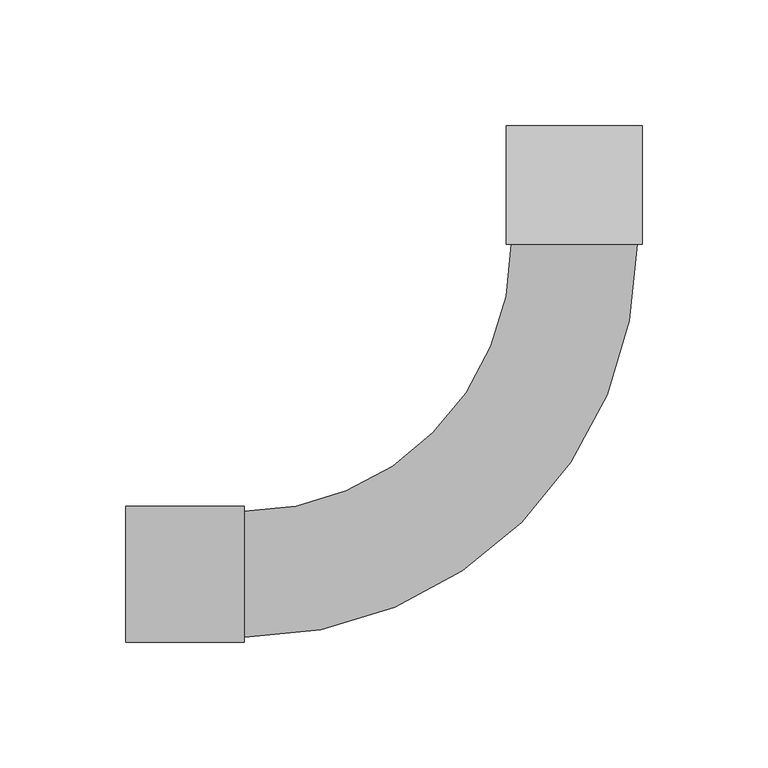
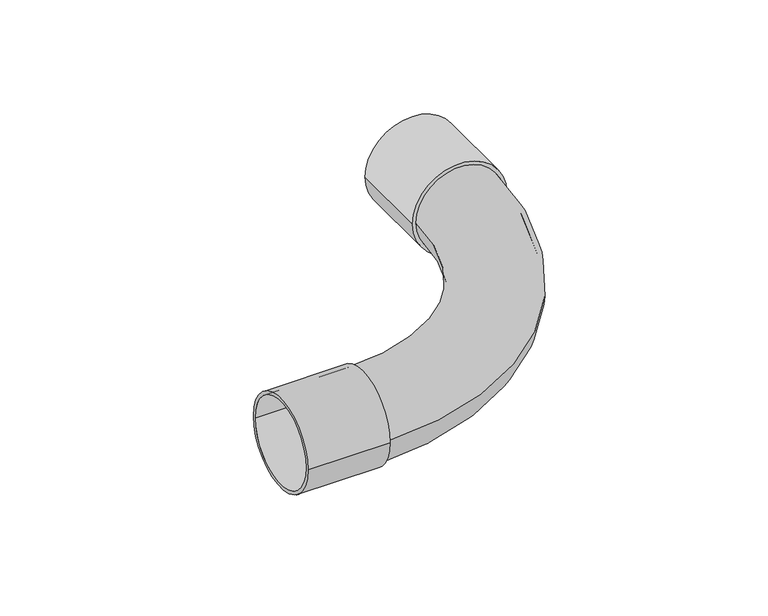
"""IFC4 building model written with IfcOpenShell, lengths in millimetres: cable carrier fitting geometry, КНС_ПоворотНа90ГрадусовТрубаТруба_IP40_DKC : Коробка."""

from ifc_helpers import new_model, si_unit, point, frame, origin, origin_2d, place, context, project, spatial, circle_curve, ellipse_curve, trimmed, segment, composite_curve, outline, extrude, source, transform, mapped, element, save
from ifc_brep_helpers import plane_surface, revolved_surface, advanced_brep


def cable_carrier_fitting_29bca8ed(model_context):
    return source(origin(), model_context, "Body", "SolidModel", [
        advanced_brep(
        [(-131.0, -25.0, 0.0), (-131.0, 25.0, 0.0), (-131.0, -22.5, 0.0), (-131.0, 22.5, 0.0), (25.0, 131.0, 0.0), (-25.0, 131.0, 0.0), (22.5, 131.0, 0.0), (-22.5, 131.0, 0.0)],
        [
            (0, 1, circle_curve(frame((-131.0, 0.0, 0.0), z_axis=(-1.0, 0.0, 0.0), x_axis=(0.0, 1.0, 0.0)), 25.0)),
            (1, 0, circle_curve(frame((-131.0, 0.0, 0.0), z_axis=(-1.0, 0.0, 0.0), x_axis=(0.0, 1.0, 0.0)), 25.0)),
            (2, 3, circle_curve(frame((-131.0, 0.0, 0.0), z_axis=(1.0, 0.0, 0.0), x_axis=(0.0, 1.0, 0.0)), 22.5)),
            (3, 2, circle_curve(frame((-131.0, 0.0, 0.0), z_axis=(1.0, 0.0, 0.0), x_axis=(0.0, 1.0, 0.0)), 22.5)),
            (4, 5, circle_curve(frame((0.0, 131.0, 0.0), z_axis=(0.0, 1.0, 0.0), x_axis=(-1.0, 0.0, 0.0)), 25.0)),
            (5, 4, circle_curve(frame((0.0, 131.0, 0.0), z_axis=(0.0, 1.0, 0.0), x_axis=(-1.0, 0.0, 0.0)), 25.0)),
            (6, 7, circle_curve(frame((0.0, 131.0, 0.0), z_axis=(0.0, -1.0, 0.0), x_axis=(-1.0, 0.0, 0.0)), 22.5)),
            (7, 6, circle_curve(frame((0.0, 131.0, 0.0), z_axis=(0.0, -1.0, 0.0), x_axis=(-1.0, 0.0, 0.0)), 22.5)),
            (5, 1, circle_curve(frame((-131.0, 131.0, 0.0), z_axis=(0.0, 0.0, -1.0), x_axis=(0.0, -1.0, 0.0)), 106.0)),
            (0, 4, circle_curve(frame((-131.0, 131.0, 0.0), z_axis=(0.0, 0.0, 1.0), x_axis=(0.0, -1.0, 0.0)), 156.0)),
            (7, 3, circle_curve(frame((-131.0, 131.0, 0.0), z_axis=(0.0, 0.0, -1.0), x_axis=(0.0, -1.0, 0.0)), 108.5)),
            (2, 6, circle_curve(frame((-131.0, 131.0, 0.0), z_axis=(0.0, 0.0, 1.0), x_axis=(0.0, -1.0, 0.0)), 153.5)),
        ],
        [
            plane_surface(frame((-131.0, 0.0, 0.0), z_axis=(-1.0, 0.0, 0.0), x_axis=(0.0, 0.0, 1.0))),
            plane_surface(frame((0.0, 131.0, 0.0), z_axis=(0.0, 1.0, 0.0), x_axis=(0.0, 0.0, 1.0))),
            revolved_surface(trimmed(ellipse_curve(frame((-131.0, 0.0, 0.0), z_axis=(-1.0, 0.0, 0.0), x_axis=(0.0, 1.0, 0.0)), 25.0, 25.0), [point((-131.0, -25.0, 0.0))], [point((-131.0, 25.0, 0.0))], True, "CARTESIAN"), (-131.0, 131.0, 0.0), (0.0, 0.0, 1.0)),
            revolved_surface(trimmed(ellipse_curve(frame((-131.0, 0.0, 0.0), z_axis=(-1.0, 0.0, 0.0), x_axis=(0.0, 1.0, 0.0)), 25.0, 25.0), [point((-131.0, 25.0, 0.0))], [point((-131.0, -25.0, 0.0))], True, "CARTESIAN"), (-131.0, 131.0, 0.0), (0.0, 0.0, 1.0)),
            revolved_surface(trimmed(ellipse_curve(frame((-131.0, 0.0, 0.0), z_axis=(1.0, 0.0, 0.0), x_axis=(0.0, 1.0, 0.0)), 22.5, 22.5), [point((-131.0, -22.5, 0.0))], [point((-131.0, 22.5, 0.0))], True, "CARTESIAN"), (-131.0, 131.0, 0.0), (0.0, 0.0, 1.0)),
            revolved_surface(trimmed(ellipse_curve(frame((-131.0, 0.0, 0.0), z_axis=(1.0, 0.0, 0.0), x_axis=(0.0, 1.0, 0.0)), 22.5, 22.5), [point((-131.0, 22.5, 0.0))], [point((-131.0, -22.5, 0.0))], True, "CARTESIAN"), (-131.0, 131.0, 0.0), (0.0, 0.0, 1.0)),
        ],
        [
            (0, [[1, 2], [3, 4]]),
            (1, [[5, 6], [7, 8]]),
            (2, [[9, -1, 10, -6]]),
            (3, [[-10, -2, -9, -5]]),
            (4, [[11, -3, 12, -8]]),
            (5, [[-12, -4, -11, -7]]),
        ],
    ),
        extrude(outline(composite_curve([segment(trimmed(circle_curve(origin_2d(), 27.0), [point((0.0, 27.0))], [point((0.0, -27.0))], False, "CARTESIAN"), True, "CONTINUOUS"), segment(trimmed(circle_curve(origin_2d(), 27.0), [point((0.0, -27.0))], [point((0.0, 27.0))], False, "CARTESIAN"), True, "CONTINUOUS")], self_intersect=False), holes=[composite_curve([segment(trimmed(circle_curve(origin_2d(), 25.0), [point((0.0, 25.0))], [point((0.0, -25.0))], True, "CARTESIAN"), True, "CONTINUOUS"), segment(trimmed(circle_curve(origin_2d(), 25.0), [point((0.0, -25.0))], [point((0.0, 25.0))], True, "CARTESIAN"), True, "CONTINUOUS")], self_intersect=False)]), frame((0.0, 131.0, 0.0), z_axis=(0.0, 1.0, 0.0), x_axis=(0.0, 0.0, 1.0)), (0.0, 0.0, 1.0), 47.0),
        extrude(outline(composite_curve([segment(trimmed(circle_curve(origin_2d(), 27.0), [point((-27.0, 0.0))], [point((27.0, 0.0))], False, "CARTESIAN"), True, "CONTINUOUS"), segment(trimmed(circle_curve(origin_2d(), 27.0), [point((27.0, 0.0))], [point((-27.0, 0.0))], False, "CARTESIAN"), True, "CONTINUOUS")], self_intersect=False), holes=[composite_curve([segment(trimmed(circle_curve(origin_2d(), 25.0), [point((-25.0, 0.0))], [point((25.0, 0.0))], True, "CARTESIAN"), True, "CONTINUOUS"), segment(trimmed(circle_curve(origin_2d(), 25.0), [point((25.0, 0.0))], [point((-25.0, 0.0))], True, "CARTESIAN"), True, "CONTINUOUS")], self_intersect=False)]), frame((-178.0, 0.0, 0.0), z_axis=(1.0, 0.0, 0.0), x_axis=(0.0, 1.0, 0.0)), (0.0, 0.0, 1.0), 47.0),
    ])


if __name__ == "__main__":
    model = new_model("IFC4")
    model_context = context("Model", 3, world=origin())
    ifc_project = project(units=[si_unit("LENGTHUNIT", "METRE", prefix="MILLI")], contexts=[model_context])
    site = spatial("IfcSite", under=ifc_project)
    building = spatial("IfcBuilding", under=site)
    placement = place(None, origin())
    cable_carrier_fitting_shape = cable_carrier_fitting_29bca8ed(model_context)
    element("IfcCableCarrierFitting", 1, ObjectType="КНС_ПоворотНа90ГрадусовТрубаТруба_IP40_DKC : Коробка", at=placement, inside=building, context=model_context, shape_type="MappedRepresentation", body=[
        mapped(cable_carrier_fitting_shape, transform((0.0, 0.0, 0.0), x_axis=(1.0, 0.0, 0.0), y_axis=(0.0, 1.0, 0.0), z_axis=(0.0, 0.0, 1.0))),
    ])
    save(model, "model.ifc")
